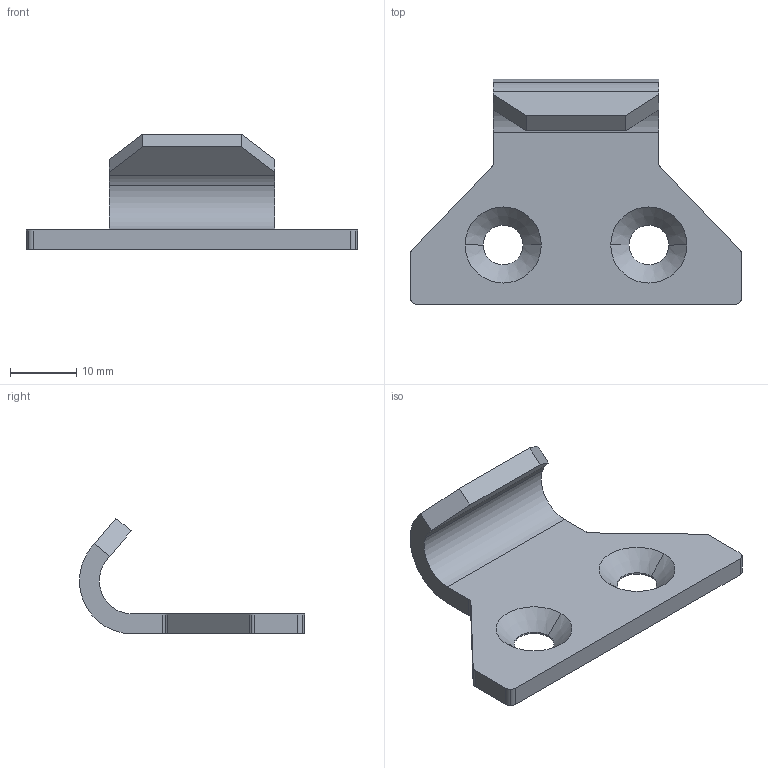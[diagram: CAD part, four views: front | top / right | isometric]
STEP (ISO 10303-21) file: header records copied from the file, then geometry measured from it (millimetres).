
FILE_DESCRIPTION((''),'2;1');
FILE_NAME('3624.04_..stp','2012-08-27T09:08:54',(''),(''),'Mechanical Desktop 2006','Mechanical Desktop 2006',', , ');
FILE_SCHEMA(('CONFIG_CONTROL_DESIGN'));
Length unit declared in the file: millimetre
Products named in the file (2): 3624.04_; TEIL1
Assembly tree (1 placements, depth 2):
  3624.04_
    TEIL1
Bounding box: 50 x 34 x 17.47 mm (x, y, z)
Volume: 4135.7 mm3; surface area: 3466.3 mm2
Topology: 1 solids, 1 shells, 38 faces, 104 edges, 68 vertices
Faces by surface type: cylinder 20, plane 14, cone 4
Entity records: 1337 total; most frequent: DIRECTION 228, CARTESIAN_POINT 212, ORIENTED_EDGE 208, EDGE_CURVE 104, AXIS2_PLACEMENT_3D 84, VERTEX_POINT 68, VECTOR 60, LINE 60
